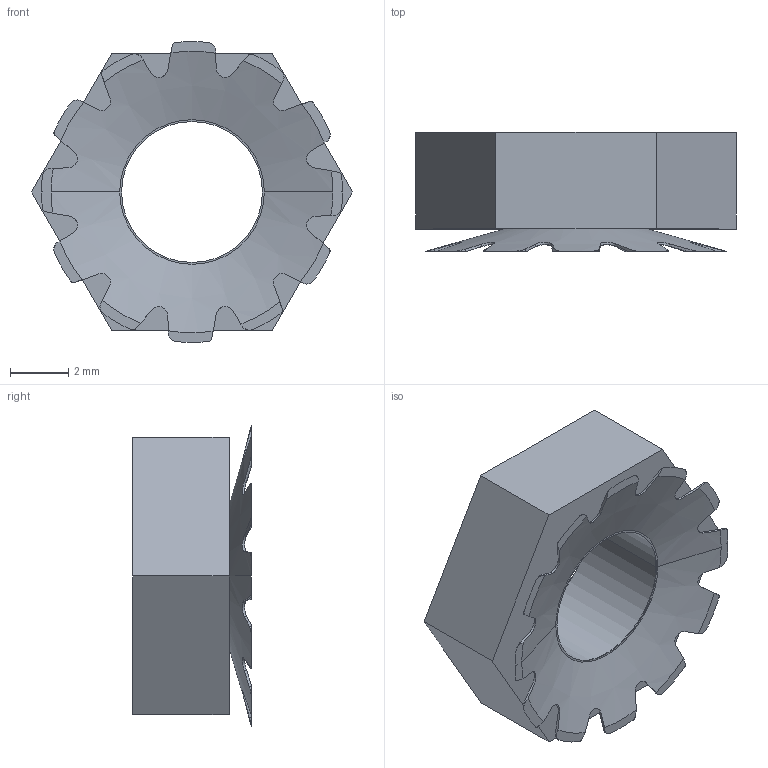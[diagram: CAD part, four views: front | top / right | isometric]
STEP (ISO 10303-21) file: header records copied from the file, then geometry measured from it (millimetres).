
FILE_DESCRIPTION((''),'2;1');
FILE_NAME('10-32KEPNUT','2020-05-26T13:20:34',('dking'),('Keithley Instruments'),'CREO PARAMETRIC BY PTC INC, 2019080','CREO PARAMETRIC BY PTC INC, 2019080','');
FILE_SCHEMA(('AUTOMOTIVE_DESIGN { 1 0 10303 214 1 1 1 1 }'));
Length unit declared in the file: inch
Products named in the file (1): 10-32KEPNUT
Bounding box: 11 x 4.06 x 10.31 mm (x, y, z)
Volume: 202.6 mm3; surface area: 395.1 mm2
Topology: 1 solids, 1 shells, 87 faces, 252 edges, 168 vertices
Faces by surface type: plane 45, cylinder 38, cone 4
Entity records: 3903 total; most frequent: CARTESIAN_POINT 1115, ORIENTED_EDGE 504, DIRECTION 418, EDGE_CURVE 252, COLOUR_RGB 190, VERTEX_POINT 168, AXIS2_PLACEMENT_3D 158, VECTOR 99
